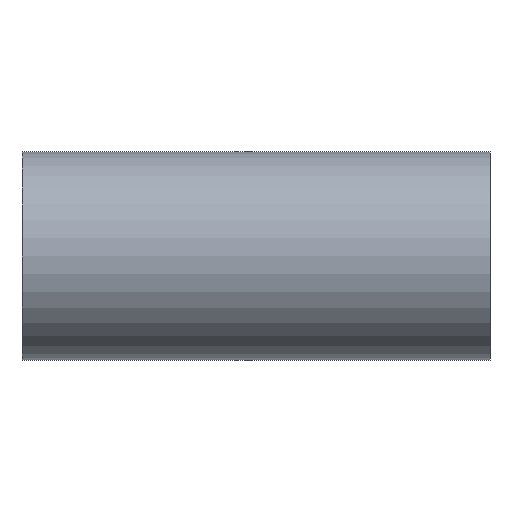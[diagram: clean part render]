
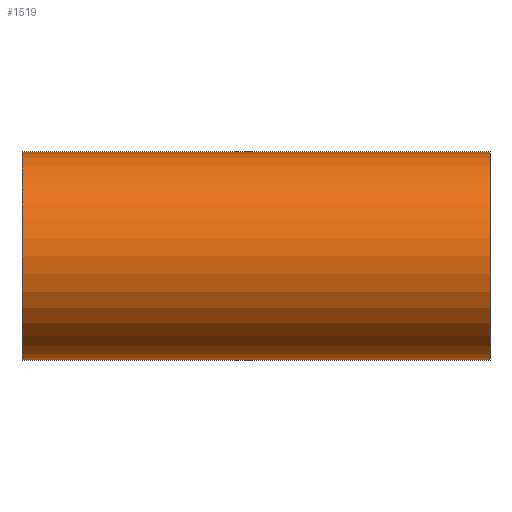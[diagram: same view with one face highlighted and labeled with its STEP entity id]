
A CAD part, front view. The second image highlights one B-rep face of the part: STEP entity #1519.
In plain terms, the highlighted cylindrical face has radius 38.1 mm (diameter 76.2 mm), a partial arc.
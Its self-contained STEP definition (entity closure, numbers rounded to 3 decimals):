
#15 = LINE ( 'NONE', #1149, #699 ) ;
#129 = FACE_OUTER_BOUND ( 'NONE', #755, .T. ) ;
#149 = CARTESIAN_POINT ( 'NONE',  ( -85.7, 0., -38.1 ) ) ;
#217 = VERTEX_POINT ( 'NONE', #438 ) ;
#438 = CARTESIAN_POINT ( 'NONE',  ( 85.7, 0., 38.1 ) ) ;
#483 = EDGE_CURVE ( 'NONE', #1950, #940, #671, .T. ) ;
#538 = CARTESIAN_POINT ( 'NONE',  ( -85.7, 0., 38.1 ) ) ;
#564 = ORIENTED_EDGE ( 'NONE', *, *, #929, .T. ) ;
#583 = AXIS2_PLACEMENT_3D ( 'NONE', #1099, #1328, #642 ) ;
#642 = DIRECTION ( 'NONE',  ( 0., 0., -1. ) ) ;
#655 = CARTESIAN_POINT ( 'NONE',  ( 85.7, 0., -38.1 ) ) ;
#671 = CIRCLE ( 'NONE', #583, 38.1 ) ;
#680 = DIRECTION ( 'NONE',  ( 1., 0., 0. ) ) ;
#699 = VECTOR ( 'NONE', #1277, 1000. ) ;
#721 = CARTESIAN_POINT ( 'NONE',  ( -85.7, 0., -38.1 ) ) ;
#726 = ORIENTED_EDGE ( 'NONE', *, *, #1704, .T. ) ;
#755 = EDGE_LOOP ( 'NONE', ( #1713, #1823, #726, #564 ) ) ;
#796 = DIRECTION ( 'NONE',  ( 0., 0., -1. ) ) ;
#811 = DIRECTION ( 'NONE',  ( -1., 0., 0. ) ) ;
#815 = VECTOR ( 'NONE', #680, 1000. ) ;
#820 = CARTESIAN_POINT ( 'NONE',  ( 85.7, 0., 0. ) ) ;
#929 = EDGE_CURVE ( 'NONE', #1514, #217, #1143, .T. ) ;
#940 = VERTEX_POINT ( 'NONE', #149 ) ;
#984 = AXIS2_PLACEMENT_3D ( 'NONE', #820, #811, #796 ) ;
#994 = CARTESIAN_POINT ( 'NONE',  ( -85.7, 0., 0. ) ) ;
#1099 = CARTESIAN_POINT ( 'NONE',  ( -85.7, 0., 0. ) ) ;
#1143 = CIRCLE ( 'NONE', #984, 38.1 ) ;
#1149 = CARTESIAN_POINT ( 'NONE',  ( -85.7, 0., 38.1 ) ) ;
#1178 = CYLINDRICAL_SURFACE ( 'NONE', #1389, 38.1 ) ;
#1203 = EDGE_CURVE ( 'NONE', #1950, #217, #15, .T. ) ;
#1244 = LINE ( 'NONE', #721, #815 ) ;
#1277 = DIRECTION ( 'NONE',  ( 1., 0., 0. ) ) ;
#1328 = DIRECTION ( 'NONE',  ( 1., 0., 0. ) ) ;
#1350 = DIRECTION ( 'NONE',  ( 1., 0., 0. ) ) ;
#1389 = AXIS2_PLACEMENT_3D ( 'NONE', #994, #1350, #1942 ) ;
#1514 = VERTEX_POINT ( 'NONE', #655 ) ;
#1519 = ADVANCED_FACE ( 'NONE', ( #129 ), #1178, .T. ) ;
#1704 = EDGE_CURVE ( 'NONE', #940, #1514, #1244, .T. ) ;
#1713 = ORIENTED_EDGE ( 'NONE', *, *, #1203, .F. ) ;
#1823 = ORIENTED_EDGE ( 'NONE', *, *, #483, .T. ) ;
#1942 = DIRECTION ( 'NONE',  ( 0., 0., -1. ) ) ;
#1950 = VERTEX_POINT ( 'NONE', #538 ) ;
